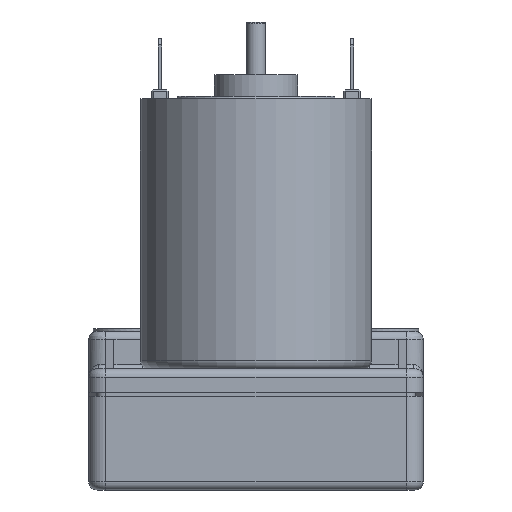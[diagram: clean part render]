
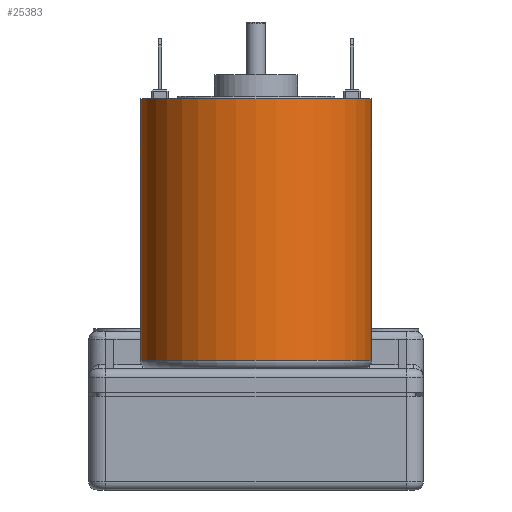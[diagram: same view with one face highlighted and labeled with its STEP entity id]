
A CAD part, front view. The second image highlights one B-rep face of the part: STEP entity #25383.
In plain terms, the highlighted cylindrical face has radius 13.85 mm (diameter 27.7 mm), a full revolution.
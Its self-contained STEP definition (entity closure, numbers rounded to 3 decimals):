
#24497=CARTESIAN_POINT('',(-13.85,32.3,0.));
#24498=VERTEX_POINT('',#24497);
#24499=CARTESIAN_POINT('',(0.0,32.3,0.0));
#24500=DIRECTION('',(0.0,-1.0,0.0));
#24501=DIRECTION('',(1.0,0.0,0.0));
#24502=AXIS2_PLACEMENT_3D('',#24499,#24500,#24501);
#24503=CIRCLE('',#24502,13.85);
#24504=EDGE_CURVE('',#24498,#24498,#24503,.T.);
#25349=CARTESIAN_POINT('',(-13.85,1.0,0.));
#25350=VERTEX_POINT('',#25349);
#25351=CARTESIAN_POINT('',(0.0,1.0,0.0));
#25352=DIRECTION('',(0.0,-1.0,0.0));
#25353=DIRECTION('',(1.0,0.0,0.0));
#25354=AXIS2_PLACEMENT_3D('',#25351,#25352,#25353);
#25355=CIRCLE('',#25354,13.85);
#25356=EDGE_CURVE('',#25350,#25350,#25355,.T.);
#25372=CARTESIAN_POINT('',(0.0,0.0,0.0));
#25373=DIRECTION('',(0.0,1.0,0.0));
#25374=DIRECTION('',(1.0,0.0,0.0));
#25375=AXIS2_PLACEMENT_3D('',#25372,#25373,#25374);
#25376=CYLINDRICAL_SURFACE('',#25375,13.85);
#25377=ORIENTED_EDGE('',*,*,#24504,.T.);
#25378=EDGE_LOOP('',(#25377));
#25379=FACE_OUTER_BOUND('',#25378,.T.);
#25380=ORIENTED_EDGE('',*,*,#25356,.F.);
#25381=EDGE_LOOP('',(#25380));
#25382=FACE_BOUND('',#25381,.T.);
#25383=ADVANCED_FACE('',(#25379,#25382),#25376,.T.);
